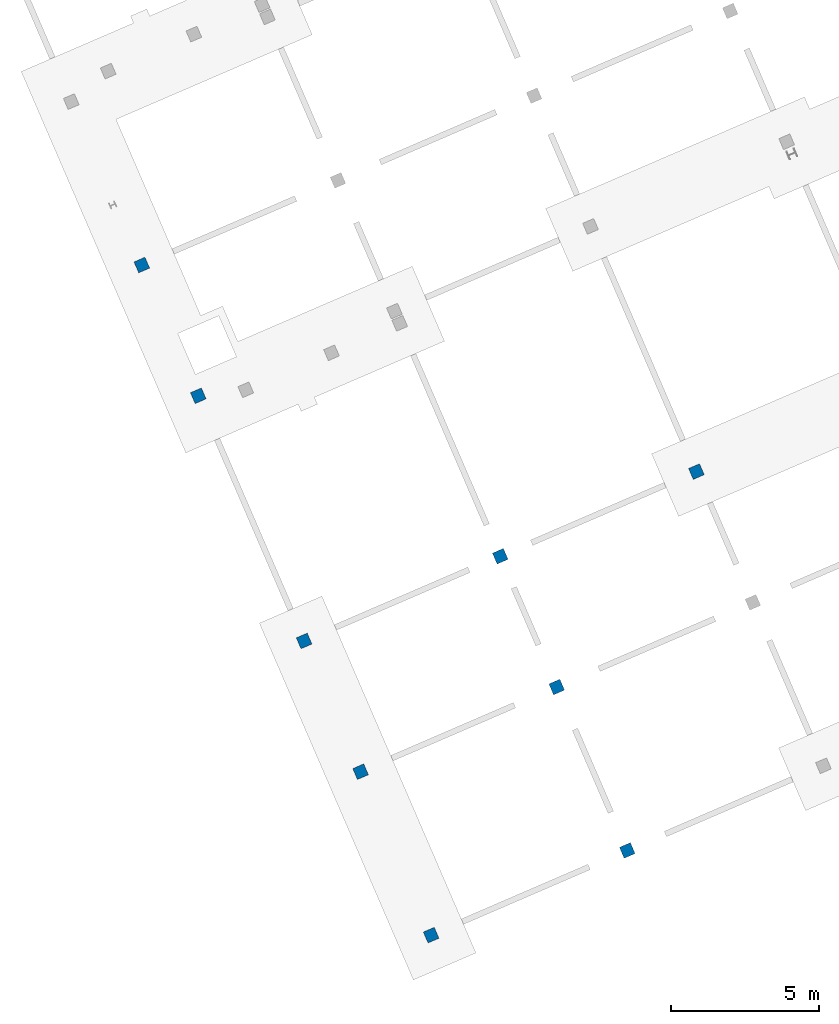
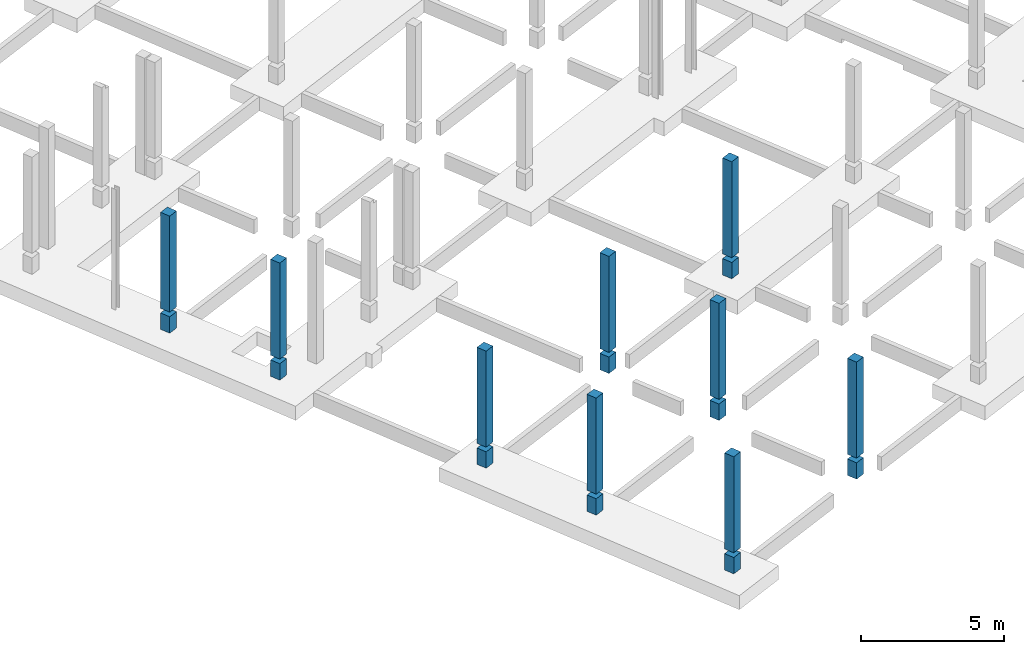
# One storey, part 1 of 11: 9 columns.
"""IFC4 building model written with IfcOpenShell, lengths in metres."""

from ifc_helpers import new_model, entity, si_unit, converted_unit, derived_unit, direction, frame, origin, place, context, subcontext, project, spatial, indexed_curve, outline, extrude, source, transform, mapped, material, type_object, type_shapes, element, save


model = new_model("IFC4")

# Units and contexts
model_context = context("Model", 3, precision=1e-05, world=origin(), true_north=direction((6.12323399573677e-17, 1.0)))
body_context = subcontext(model_context, "Body", "Model", "MODEL_VIEW")
ifc_project = project(units=[si_unit("LENGTHUNIT", "METRE"), si_unit("AREAUNIT", "SQUARE_METRE"), si_unit("VOLUMEUNIT", "CUBIC_METRE"), converted_unit("PLANEANGLEUNIT", "DEGREE", entity("IfcPlaneAngleMeasure", 0.0174532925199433), si_unit("PLANEANGLEUNIT", "RADIAN"), dimensions=[0, 0, 0, 0, 0, 0, 0]), si_unit("MASSUNIT", "GRAM", prefix="KILO"), derived_unit("MOMENTOFINERTIAUNIT", [(si_unit("LENGTHUNIT", "METRE"), 4)]), derived_unit("LINEARFORCEUNIT", [(si_unit("MASSUNIT", "GRAM", prefix="KILO"), 1), (si_unit("TIMEUNIT", "SECOND"), -2)]), derived_unit("WARPINGCONSTANTUNIT", [(si_unit("LENGTHUNIT", "METRE"), 6)]), derived_unit("THERMALTRANSMITTANCEUNIT", [(si_unit("MASSUNIT", "GRAM", prefix="KILO"), 1), (si_unit("THERMODYNAMICTEMPERATUREUNIT", "KELVIN"), -1), (si_unit("TIMEUNIT", "SECOND"), -3)]), derived_unit("USERDEFINED", [(si_unit("MASSUNIT", "GRAM", prefix="KILO"), 1), (si_unit("TIMEUNIT", "SECOND"), -2), (si_unit("THERMODYNAMICTEMPERATUREUNIT", "KELVIN"), -1)]), derived_unit("THERMALRESISTANCEUNIT", [(si_unit("MASSUNIT", "GRAM", prefix="KILO"), -1), (si_unit("TIMEUNIT", "SECOND"), 3), (si_unit("THERMODYNAMICTEMPERATUREUNIT", "KELVIN"), 1)])], contexts=[model_context])

# Site, building, storey
site_placement = place(None, origin())
site = spatial("IfcSite", under=ifc_project, at=site_placement, Name="Default", CompositionType="ELEMENT")
building_placement = place(site_placement, frame((12.6613425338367, -82.5732315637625, 317.15), z_axis=(0.0, 0.0, 1.0), x_axis=(-0.396377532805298, 0.918087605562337, 0.0)))
building = spatial("IfcBuilding", under=site, at=building_placement, Name="CESFAM Coyhaique", CompositionType="ELEMENT")
storey_placement = place(building_placement, frame((0.0, 0.0, -0.950000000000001)))
storey = spatial("IfcBuildingStorey", under=building, at=storey_placement, Name="d_Fundaciones", CompositionType="ELEMENT", Elevation=-0.950000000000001)

# Columns
ifc_material = material(Name="HA")
column_type_1 = type_object("IfcColumnType", Name="M_Concrete-Square-Column:400 x 400mm", PredefinedType="COLUMN", material=ifc_material)
shared_shape_1 = source(origin(), body_context, "Body", "SweptSolid", [
    extrude(outline(indexed_curve([(-0.2, -0.2), (0.2, -0.2), (0.2, 0.2), (-0.2, 0.2), (-0.2, -0.2)], self_intersect=False)), frame((4.16885341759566, 17.2028504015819, -0.950000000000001), z_axis=(0.0, 0.0, 1.0), x_axis=(-1.0, 0.0, 0.0)), (0.0, 0.0, 1.0), 0.7),
    extrude(outline(indexed_curve([(-0.2, -0.2), (0.2, -0.2), (0.2, 0.2), (-0.2, 0.2), (-0.2, -0.2)], self_intersect=False)), frame((4.16885341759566, 17.2028504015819, -0.0500000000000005), z_axis=(0.0, 0.0, 1.0), x_axis=(-1.0, 0.0, 0.0)), (0.0, 0.0, 1.0), 4.10000000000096),
])
type_shapes(column_type_1, [shared_shape_1])
column_1_placement = place(storey_placement, frame((0.0, 0.0, 0.950000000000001)))
element("IfcColumn", 1, at=column_1_placement, inside=storey, type_object=column_type_1, Name="M_Concrete-Square-Column:400 x 400mm", ObjectType="M_Concrete-Square-Column:400 x 400mm", PredefinedType="COLUMN", context=body_context, shape_type="MappedRepresentation", body=[
    mapped(shared_shape_1, transform((0.0, 0.0, 0.0), scale=1.0)),
])
column_type_2 = type_object("IfcColumnType", Name="M_Concrete-Square-Column:400 x 400mm", PredefinedType="COLUMN", material=ifc_material)
shared_shape_2 = source(origin(), body_context, "Body", "SweptSolid", [
    extrude(outline(indexed_curve([(-0.2, -0.2), (0.2, -0.2), (0.2, 0.2), (-0.2, 0.2), (-0.2, -0.2)], self_intersect=False)), frame((4.16885341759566, 10.0028504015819, -0.950000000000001), z_axis=(0.0, 0.0, 1.0), x_axis=(-1.0, 0.0, 0.0)), (0.0, 0.0, 1.0), 0.7),
    extrude(outline(indexed_curve([(-0.2, -0.2), (0.2, -0.2), (0.2, 0.2), (-0.2, 0.2), (-0.2, -0.2)], self_intersect=False)), frame((4.16885341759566, 10.0028504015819, -0.0500000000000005), z_axis=(0.0, 0.0, 1.0), x_axis=(-1.0, 0.0, 0.0)), (0.0, 0.0, 1.0), 4.10000000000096),
])
type_shapes(column_type_2, [shared_shape_2])
column_2_placement = place(storey_placement, frame((0.0, 0.0, 0.950000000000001)))
element("IfcColumn", 2, at=column_2_placement, inside=storey, type_object=column_type_2, Name="M_Concrete-Square-Column:400 x 400mm", ObjectType="M_Concrete-Square-Column:400 x 400mm", PredefinedType="COLUMN", context=body_context, shape_type="MappedRepresentation", body=[
    mapped(shared_shape_2, transform((0.0, 0.0, 0.0), scale=1.0)),
])
column_type_3 = type_object("IfcColumnType", Name="M_Concrete-Square-Column:400 x 400mm", PredefinedType="COLUMN", material=ifc_material)
shared_shape_3 = source(origin(), body_context, "Body", "SweptSolid", [
    extrude(outline(indexed_curve([(-0.2, -0.2), (0.2, -0.2), (0.2, 0.2), (-0.2, 0.2), (-0.2, -0.2)], self_intersect=False)), frame((10.1688534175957, 17.2028504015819, -0.950000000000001), z_axis=(0.0, 0.0, 1.0), x_axis=(-1.0, 0.0, 0.0)), (0.0, 0.0, 1.0), 0.7),
    extrude(outline(indexed_curve([(-0.2, -0.2), (0.2, -0.2), (0.2, 0.2), (-0.2, 0.2), (-0.2, -0.2)], self_intersect=False)), frame((10.1688534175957, 17.2028504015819, -0.0500000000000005), z_axis=(0.0, 0.0, 1.0), x_axis=(-1.0, 0.0, 0.0)), (0.0, 0.0, 1.0), 4.10000000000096),
])
type_shapes(column_type_3, [shared_shape_3])
column_3_placement = place(storey_placement, frame((0.0, 0.0, 0.950000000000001)))
element("IfcColumn", 3, at=column_3_placement, inside=storey, type_object=column_type_3, Name="M_Concrete-Square-Column:400 x 400mm", ObjectType="M_Concrete-Square-Column:400 x 400mm", PredefinedType="COLUMN", context=body_context, shape_type="MappedRepresentation", body=[
    mapped(shared_shape_3, transform((0.0, 0.0, 0.0), scale=1.0)),
])
column_type_4 = type_object("IfcColumnType", Name="M_Concrete-Square-Column:400 x 400mm", PredefinedType="COLUMN", material=ifc_material)
shared_shape_4 = source(origin(), body_context, "Body", "SweptSolid", [
    extrude(outline(indexed_curve([(-0.2, -0.2), (0.2, -0.2), (0.2, 0.2), (-0.2, 0.2), (-0.2, -0.2)], self_intersect=False)), frame((10.1688534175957, 10.0028504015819, -0.950000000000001), z_axis=(0.0, 0.0, 1.0), x_axis=(-1.0, 0.0, 0.0)), (0.0, 0.0, 1.0), 0.7),
    extrude(outline(indexed_curve([(-0.2, -0.2), (0.2, -0.2), (0.2, 0.2), (-0.2, 0.2), (-0.2, -0.2)], self_intersect=False)), frame((10.1688534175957, 10.0028504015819, -0.0500000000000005), z_axis=(0.0, 0.0, 1.0), x_axis=(-1.0, 0.0, 0.0)), (0.0, 0.0, 1.0), 4.10000000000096),
])
type_shapes(column_type_4, [shared_shape_4])
column_4_placement = place(storey_placement, frame((0.0, 0.0, 0.950000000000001)))
element("IfcColumn", 4, at=column_4_placement, inside=storey, type_object=column_type_4, Name="M_Concrete-Square-Column:400 x 400mm", ObjectType="M_Concrete-Square-Column:400 x 400mm", PredefinedType="COLUMN", context=body_context, shape_type="MappedRepresentation", body=[
    mapped(shared_shape_4, transform((0.0, 0.0, 0.0), scale=1.0)),
])
column_type_5 = type_object("IfcColumnType", Name="M_Concrete-Square-Column:400 x 400mm", PredefinedType="COLUMN", material=ifc_material)
shared_shape_5 = source(origin(), body_context, "Body", "SweptSolid", [
    extrude(outline(indexed_curve([(-0.2, -0.2), (0.2, -0.2), (0.2, 0.2), (-0.2, 0.2), (-0.2, -0.2)], self_intersect=False)), frame((14.9688534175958, 17.2028504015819, -0.950000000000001), z_axis=(0.0, 0.0, 1.0), x_axis=(-1.0, 0.0, 0.0)), (0.0, 0.0, 1.0), 0.7),
    extrude(outline(indexed_curve([(-0.2, -0.2), (0.2, -0.2), (0.2, 0.2), (-0.2, 0.2), (-0.2, -0.2)], self_intersect=False)), frame((14.9688534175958, 17.2028504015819, -0.0500000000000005), z_axis=(0.0, 0.0, 1.0), x_axis=(-1.0, 0.0, 0.0)), (0.0, 0.0, 1.0), 4.10000000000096),
])
type_shapes(column_type_5, [shared_shape_5])
column_5_placement = place(storey_placement, frame((0.0, 0.0, 0.950000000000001)))
element("IfcColumn", 5, at=column_5_placement, inside=storey, type_object=column_type_5, Name="M_Concrete-Square-Column:400 x 400mm", ObjectType="M_Concrete-Square-Column:400 x 400mm", PredefinedType="COLUMN", context=body_context, shape_type="MappedRepresentation", body=[
    mapped(shared_shape_5, transform((0.0, 0.0, 0.0), scale=1.0)),
])
column_type_6 = type_object("IfcColumnType", Name="M_Concrete-Square-Column:400 x 400mm", PredefinedType="COLUMN", material=ifc_material)
shared_shape_6 = source(origin(), body_context, "Body", "SweptSolid", [
    extrude(outline(indexed_curve([(-0.2, -0.2), (0.2, -0.2), (0.2, 0.2), (-0.2, 0.2), (-0.2, -0.2)], self_intersect=False)), frame((14.9688534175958, 10.0028504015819, -0.950000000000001), z_axis=(0.0, 0.0, 1.0), x_axis=(-1.0, 0.0, 0.0)), (0.0, 0.0, 1.0), 0.7),
    extrude(outline(indexed_curve([(-0.2, -0.2), (0.2, -0.2), (0.2, 0.2), (-0.2, 0.2), (-0.2, -0.2)], self_intersect=False)), frame((14.9688534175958, 10.0028504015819, -0.0500000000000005), z_axis=(0.0, 0.0, 1.0), x_axis=(-1.0, 0.0, 0.0)), (0.0, 0.0, 1.0), 4.10000000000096),
])
type_shapes(column_type_6, [shared_shape_6])
column_6_placement = place(storey_placement, frame((0.0, 0.0, 0.950000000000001)))
element("IfcColumn", 6, at=column_6_placement, inside=storey, type_object=column_type_6, Name="M_Concrete-Square-Column:400 x 400mm", ObjectType="M_Concrete-Square-Column:400 x 400mm", PredefinedType="COLUMN", context=body_context, shape_type="MappedRepresentation", body=[
    mapped(shared_shape_6, transform((0.0, 0.0, 0.0), scale=1.0)),
])
column_type_7 = type_object("IfcColumnType", Name="M_Concrete-Square-Column:400 x 400mm", PredefinedType="COLUMN", material=ifc_material)
shared_shape_7 = source(origin(), body_context, "Body", "SweptSolid", [
    extrude(outline(indexed_curve([(-0.2, -0.2), (0.2, -0.2), (0.2, 0.2), (-0.2, 0.2), (-0.2, -0.2)], self_intersect=False)), frame((14.9688534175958, 2.8028504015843, -0.950000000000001), z_axis=(0.0, 0.0, 1.0), x_axis=(-1.0, 0.0, 0.0)), (0.0, 0.0, 1.0), 0.7),
    extrude(outline(indexed_curve([(-0.2, -0.2), (0.2, -0.2), (0.2, 0.2), (-0.2, 0.2), (-0.2, -0.2)], self_intersect=False)), frame((14.9688534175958, 2.8028504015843, -0.0500000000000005), z_axis=(0.0, 0.0, 1.0), x_axis=(-1.0, 0.0, 0.0)), (0.0, 0.0, 1.0), 4.10000000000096),
])
type_shapes(column_type_7, [shared_shape_7])
column_7_placement = place(storey_placement, frame((0.0, 0.0, 0.950000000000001)))
element("IfcColumn", 7, at=column_7_placement, inside=storey, type_object=column_type_7, Name="M_Concrete-Square-Column:400 x 400mm", ObjectType="M_Concrete-Square-Column:400 x 400mm", PredefinedType="COLUMN", context=body_context, shape_type="MappedRepresentation", body=[
    mapped(shared_shape_7, transform((0.0, 0.0, 0.0), scale=1.0)),
])
column_type_8 = type_object("IfcColumnType", Name="M_Concrete-Square-Column:400 x 400mm", PredefinedType="COLUMN", material=ifc_material)
shared_shape_8 = source(origin(), body_context, "Body", "SweptSolid", [
    extrude(outline(indexed_curve([(-0.199999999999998, -0.2), (0.200000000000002, -0.2), (0.200000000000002, 0.2), (-0.199999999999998, 0.2), (-0.199999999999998, -0.2)], self_intersect=False)), frame((23.9688534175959, 17.2028504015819, -0.950000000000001), z_axis=(0.0, 0.0, 1.0), x_axis=(-1.0, 0.0, 0.0)), (0.0, 0.0, 1.0), 0.7),
    extrude(outline(indexed_curve([(-0.2, -0.199999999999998), (0.2, -0.199999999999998), (0.2, 0.200000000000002), (-0.2, 0.200000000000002), (-0.2, -0.199999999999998)], self_intersect=False)), frame((23.9688534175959, 17.2028504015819, -0.0500000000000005), z_axis=(0.0, 0.0, 1.0), x_axis=(0.0, 1.0, 0.0)), (0.0, 0.0, 1.0), 4.10000000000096),
])
type_shapes(column_type_8, [shared_shape_8])
column_8_placement = place(storey_placement, frame((0.0, 0.0, 0.950000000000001)))
element("IfcColumn", 8, at=column_8_placement, inside=storey, type_object=column_type_8, Name="M_Concrete-Square-Column:400 x 400mm", ObjectType="M_Concrete-Square-Column:400 x 400mm", PredefinedType="COLUMN", context=body_context, shape_type="MappedRepresentation", body=[
    mapped(shared_shape_8, transform((0.0, 0.0, 0.0), scale=1.0)),
])
column_type_9 = type_object("IfcColumnType", Name="M_Concrete-Square-Column:400 x 400mm", PredefinedType="COLUMN", material=ifc_material)
shared_shape_9 = source(origin(), body_context, "Body", "SweptSolid", [
    extrude(outline(indexed_curve([(-0.200000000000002, -0.2), (0.199999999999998, -0.2), (0.199999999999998, 0.2), (-0.200000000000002, 0.2), (-0.200000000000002, -0.2)], self_intersect=False)), frame((28.7688534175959, 17.2028504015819, -0.950000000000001), z_axis=(0.0, 0.0, 1.0), x_axis=(-1.0, 0.0, 0.0)), (0.0, 0.0, 1.0), 0.7),
    extrude(outline(indexed_curve([(-0.200000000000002, -0.2), (0.199999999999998, -0.2), (0.199999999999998, 0.2), (-0.200000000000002, 0.2), (-0.200000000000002, -0.2)], self_intersect=False)), frame((28.7688534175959, 17.2028504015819, -0.0500000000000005), z_axis=(0.0, 0.0, 1.0), x_axis=(-1.0, 0.0, 0.0)), (0.0, 0.0, 1.0), 4.10000000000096),
])
type_shapes(column_type_9, [shared_shape_9])
column_9_placement = place(storey_placement, frame((0.0, 0.0, 0.950000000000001)))
element("IfcColumn", 9, at=column_9_placement, inside=storey, type_object=column_type_9, Name="M_Concrete-Square-Column:400 x 400mm", ObjectType="M_Concrete-Square-Column:400 x 400mm", PredefinedType="COLUMN", context=body_context, shape_type="MappedRepresentation", body=[
    mapped(shared_shape_9, transform((0.0, 0.0, 0.0), scale=1.0)),
])

save(model, "model.ifc")
